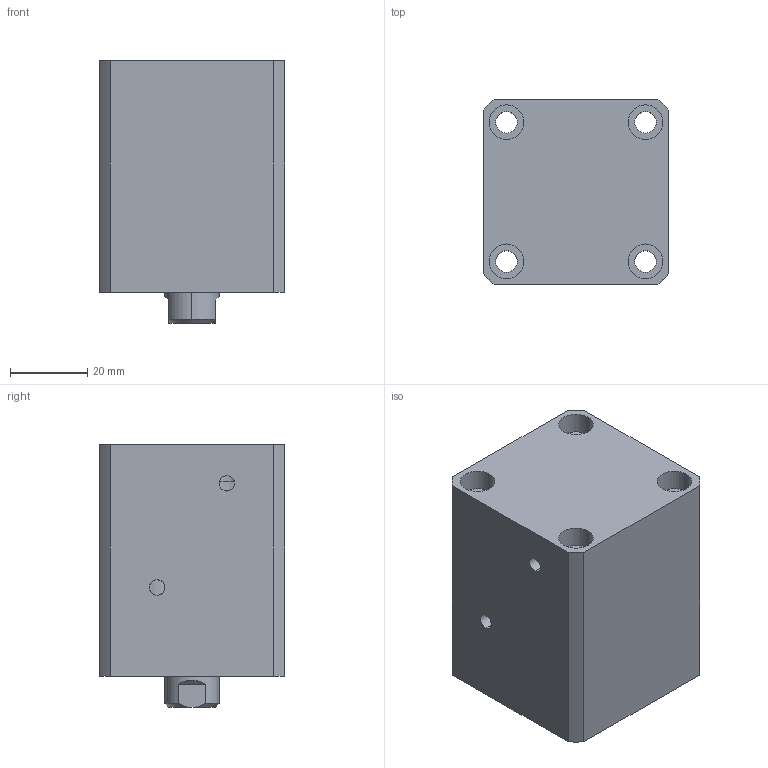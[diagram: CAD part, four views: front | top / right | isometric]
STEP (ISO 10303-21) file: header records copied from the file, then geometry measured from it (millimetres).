
FILE_DESCRIPTION (( 'STEP AP214' ), '1' );
FILE_NAME ('chtb-sdma25x15n_asm.STEP', '2018-05-22T07:02:27', ( 'Windows' ), ( 'Microsoft' ), 'SwSTEP 2.0', 'SolidWorks 2015', '' );
FILE_SCHEMA (( 'AUTOMOTIVE_DESIGN' ));
Length unit declared in the file: millimetre
Products named in the file (4): CHTB-SDMA25X15NHSG; CHTB-SDMA25X15NBT; CHTB-25QG; chtb-sdma25x15n_asm
Assembly tree (3 placements, depth 2):
  chtb-sdma25x15n_asm
    CHTB-25QG
    CHTB-SDMA25X15NBT
    CHTB-SDMA25X15NHSG
Bounding box: 48 x 48 x 68 mm (x, y, z)
Volume: 122517.1 mm3; surface area: 35789.4 mm2
Topology: 3 solids, 3 shells, 142 faces, 379 edges, 257 vertices
Faces by surface type: cylinder 89, plane 34, bspline 10, cone 9
Entity records: 8020 total; most frequent: CARTESIAN_POINT 4393, ORIENTED_EDGE 746, DIRECTION 661, EDGE_CURVE 373, AXIS2_PLACEMENT_3D 272, VERTEX_POINT 257, EDGE_LOOP 180, FACE_OUTER_BOUND 142
